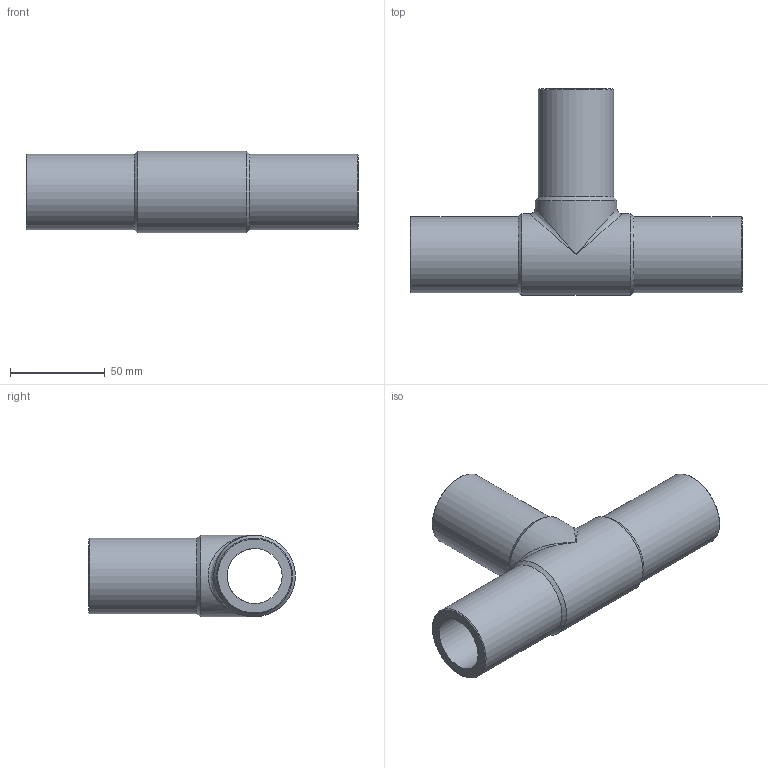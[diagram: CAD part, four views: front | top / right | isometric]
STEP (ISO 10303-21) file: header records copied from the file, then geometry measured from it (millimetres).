
FILE_DESCRIPTION(/* description */ ('Unknown'),/* implementation_level */ '2;1');
FILE_NAME(/* name */ 'TP040H',/* time_stamp */ '2021-08-12T16:30:15+02:00',/* author */ ('Unknown'),/* organization */ ('Unknown'),/* preprocessor_version */ 'ST-DEVELOPER v16.7',/* originating_system */ 'Solid Edge',/* authorisation */ 'Unknown');
FILE_SCHEMA (('AUTOMOTIVE_DESIGN {1 0 10303 214 3 1 1}'));
Length unit declared in the file: millimetre
Products named in the file (1): TP040H
Bounding box: 175 x 109 x 43 mm (x, y, z)
Volume: 155467.2 mm3; surface area: 54164.7 mm2
Topology: 1 solids, 1 shells, 18 faces, 44 edges, 23 vertices
Faces by surface type: cylinder 7, cone 6, plane 3, bspline 2
Full cylindrical faces by diameter (mm): 29 x2, 40 x3, 43 x2
Entity records: 504 total; most frequent: CARTESIAN_POINT 147, DIRECTION 76, ORIENTED_EDGE 42, AXIS2_PLACEMENT_3D 38, EDGE_LOOP 36, FACE_BOUND 36, EDGE_CURVE 21, VERTEX_POINT 19
